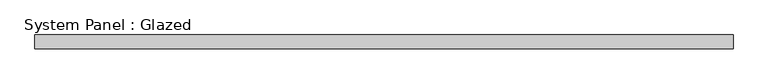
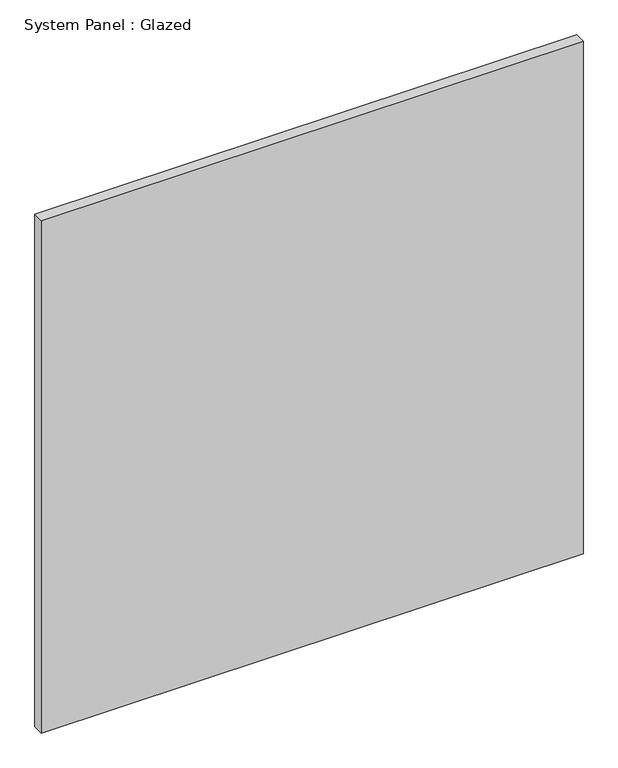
"""IFC4 building model written with IfcOpenShell, lengths in millimetres: plate geometry, System Panel : Glazed."""

from ifc_helpers import new_model, si_unit, origin, origin_with_axes, place, context, project, spatial, polyline, outline, extrude, source, transform, mapped, element, save


def system_panel_glazed_5b4b0124(model_context):
    return source(origin(), model_context, "Body", "SweptSolid", [
        extrude(outline(polyline([(638.175, 19.05), (-638.175, 19.05), (-638.175, 44.45), (638.175, 44.45), (638.175, 19.05)])), origin_with_axes(), (0.0, 0.0, 1.0), 1276.35),
    ])


if __name__ == "__main__":
    model = new_model("IFC4")
    model_context = context("Model", 3, world=origin())
    ifc_project = project(units=[si_unit("LENGTHUNIT", "METRE", prefix="MILLI")], contexts=[model_context])
    site = spatial("IfcSite", under=ifc_project)
    building = spatial("IfcBuilding", under=site)
    placement = place(None, origin())
    system_panel_glazed_shape = system_panel_glazed_5b4b0124(model_context)
    element("IfcPlate", 1, ObjectType="System Panel : Glazed", at=placement, inside=building, context=model_context, shape_type="MappedRepresentation", body=[
        mapped(system_panel_glazed_shape, transform((0.0, 0.0, 0.0), x_axis=(1.0, 0.0, 0.0), y_axis=(0.0, 1.0, 0.0), z_axis=(0.0, 0.0, 1.0))),
    ])
    save(model, "model.ifc")
